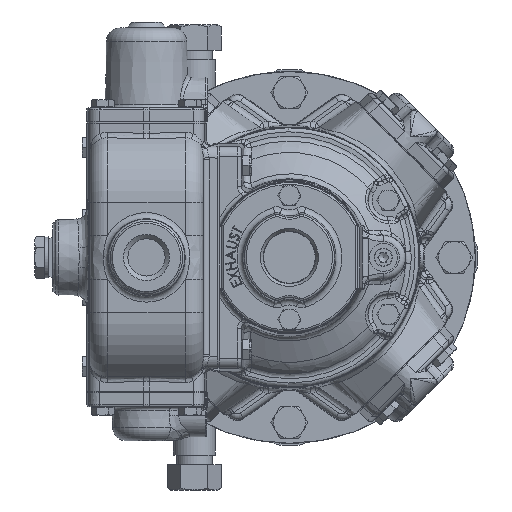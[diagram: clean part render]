
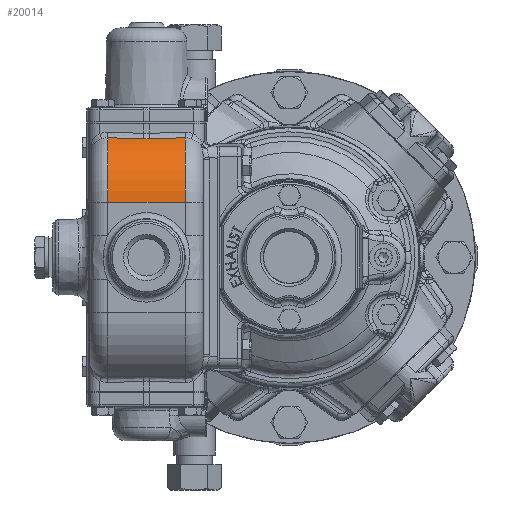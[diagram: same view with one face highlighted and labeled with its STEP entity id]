
A CAD part, left-side view. The second image highlights one B-rep face of the part: STEP entity #20014.
In plain terms, the highlighted cylindrical face has radius 36 mm (diameter 72 mm), a partial arc.
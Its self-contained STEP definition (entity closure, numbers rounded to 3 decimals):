
#3639 = EDGE_CURVE ( 'NONE', #43253, #96767, #182371, .T. ) ;
#6533 = CARTESIAN_POINT ( 'NONE',  ( -134.325, 71.02, 59.431 ) ) ;
#12605 = EDGE_LOOP ( 'NONE', ( #118715, #59454, #25527, #82264, #99521, #201960 ) ) ;
#14545 = AXIS2_PLACEMENT_3D ( 'NONE', #141931, #108900, #126462 ) ;
#20014 = ADVANCED_FACE ( 'NONE', ( #134848 ), #195907, .T. ) ;
#24713 = CARTESIAN_POINT ( 'NONE',  ( -133.559, 52., 59.819 ) ) ;
#25527 = ORIENTED_EDGE ( 'NONE', *, *, #121921, .T. ) ;
#27170 = AXIS2_PLACEMENT_3D ( 'NONE', #46371, #186945, #58880 ) ;
#37710 = CARTESIAN_POINT ( 'NONE',  ( -134.286, 70.061, 59.451 ) ) ;
#39312 = CARTESIAN_POINT ( 'NONE',  ( -153.7, 52., 27.5 ) ) ;
#43253 = VERTEX_POINT ( 'NONE', #67038 ) ;
#46371 = CARTESIAN_POINT ( 'NONE',  ( -117.7, 91., 27.5 ) ) ;
#48892 = CARTESIAN_POINT ( 'NONE',  ( -153.7, 91., 27.5 ) ) ;
#49892 = AXIS2_PLACEMENT_3D ( 'NONE', #130961, #190918, #147423 ) ;
#58880 = DIRECTION ( 'NONE',  ( -1., 0., 0. ) ) ;
#59454 = ORIENTED_EDGE ( 'NONE', *, *, #147561, .T. ) ;
#61696 = EDGE_CURVE ( 'NONE', #97025, #144758, #109399, .T. ) ;
#66680 = CARTESIAN_POINT ( 'NONE',  ( -134.286, 72.939, 59.451 ) ) ;
#67038 = CARTESIAN_POINT ( 'NONE',  ( -133.559, 91., 59.819 ) ) ;
#70676 = CARTESIAN_POINT ( 'NONE',  ( -134.286, 70.061, 59.451 ) ) ;
#71426 = CARTESIAN_POINT ( 'NONE',  ( -133.559, 52., 59.819 ) ) ;
#75983 =( BOUNDED_CURVE ( )  B_SPLINE_CURVE ( 3, ( #24713, #196419, #134366, #194359 ),
 .UNSPECIFIED., .F., .T. ) 
 B_SPLINE_CURVE_WITH_KNOTS ( ( 4, 4 ),
 ( 2.027, 2.05 ),
 .UNSPECIFIED. ) 
 CURVE ( )  GEOMETRIC_REPRESENTATION_ITEM ( )  RATIONAL_B_SPLINE_CURVE ( ( 1., 1., 1., 1. ) ) 
 REPRESENTATION_ITEM ( '' )  );
#82264 = ORIENTED_EDGE ( 'NONE', *, *, #106926, .T. ) ;
#83688 = VERTEX_POINT ( 'NONE', #66680 ) ;
#92197 = CARTESIAN_POINT ( 'NONE',  ( -153.7, 100., 27.5 ) ) ;
#96767 = VERTEX_POINT ( 'NONE', #48892 ) ;
#97025 = VERTEX_POINT ( 'NONE', #39312 ) ;
#99521 = ORIENTED_EDGE ( 'NONE', *, *, #3639, .T. ) ;
#106926 = EDGE_CURVE ( 'NONE', #83688, #43253, #158560, .T. ) ;
#108900 = DIRECTION ( 'NONE',  ( 0., -1., 0. ) ) ;
#109399 = CIRCLE ( 'NONE', #49892, 36. ) ;
#114587 = VECTOR ( 'NONE', #137711, 1000. ) ;
#118715 = ORIENTED_EDGE ( 'NONE', *, *, #61696, .T. ) ;
#121921 = EDGE_CURVE ( 'NONE', #135878, #83688, #202881, .T. ) ;
#126462 = DIRECTION ( 'NONE',  ( 1., 0., 0. ) ) ;
#130961 = CARTESIAN_POINT ( 'NONE',  ( -117.7, 52., 27.5 ) ) ;
#132699 = CARTESIAN_POINT ( 'NONE',  ( -134.325, 71.98, 59.431 ) ) ;
#134366 = CARTESIAN_POINT ( 'NONE',  ( -134.045, 64.075, 59.577 ) ) ;
#134848 = FACE_OUTER_BOUND ( 'NONE', #12605, .T. ) ;
#135690 = LINE ( 'NONE', #92197, #114587 ) ;
#135878 = VERTEX_POINT ( 'NONE', #37710 ) ;
#137711 = DIRECTION ( 'NONE',  ( 0., -1., 0. ) ) ;
#141931 = CARTESIAN_POINT ( 'NONE',  ( -117.7, 100., 27.5 ) ) ;
#144758 = VERTEX_POINT ( 'NONE', #71426 ) ;
#147423 = DIRECTION ( 'NONE',  ( -1., 0., 0. ) ) ;
#147561 = EDGE_CURVE ( 'NONE', #144758, #135878, #75983, .T. ) ;
#157926 = CARTESIAN_POINT ( 'NONE',  ( -134.286, 72.939, 59.451 ) ) ;
#158560 =( BOUNDED_CURVE ( )  B_SPLINE_CURVE ( 3, ( #157926, #189050, #203562, #174407 ),
 .UNSPECIFIED., .F., .F. ) 
 B_SPLINE_CURVE_WITH_KNOTS ( ( 4, 4 ),
 ( 1.092, 1.115 ),
 .UNSPECIFIED. ) 
 CURVE ( )  GEOMETRIC_REPRESENTATION_ITEM ( )  RATIONAL_B_SPLINE_CURVE ( ( 1., 1., 1., 1. ) ) 
 REPRESENTATION_ITEM ( '' )  );
#174407 = CARTESIAN_POINT ( 'NONE',  ( -133.559, 91., 59.819 ) ) ;
#181757 = EDGE_CURVE ( 'NONE', #96767, #97025, #135690, .T. ) ;
#182371 = CIRCLE ( 'NONE', #27170, 36. ) ;
#186945 = DIRECTION ( 'NONE',  ( 0., -1., 0. ) ) ;
#189050 = CARTESIAN_POINT ( 'NONE',  ( -134.045, 78.925, 59.577 ) ) ;
#190918 = DIRECTION ( 'NONE',  ( 0., 1., 0. ) ) ;
#194359 = CARTESIAN_POINT ( 'NONE',  ( -134.286, 70.061, 59.451 ) ) ;
#195782 = CARTESIAN_POINT ( 'NONE',  ( -134.286, 72.939, 59.451 ) ) ;
#195907 = CYLINDRICAL_SURFACE ( 'NONE', #14545, 36. ) ;
#196419 = CARTESIAN_POINT ( 'NONE',  ( -133.803, 58.054, 59.699 ) ) ;
#201960 = ORIENTED_EDGE ( 'NONE', *, *, #181757, .T. ) ;
#202881 = B_SPLINE_CURVE_WITH_KNOTS ( 'NONE', 3,
 ( #70676, #6533, #132699, #195782 ),
 .UNSPECIFIED., .F., .F.,
 ( 4, 4 ),
 ( 0., 1. ),
 .UNSPECIFIED. ) ;
#203562 = CARTESIAN_POINT ( 'NONE',  ( -133.803, 84.946, 59.699 ) ) ;
